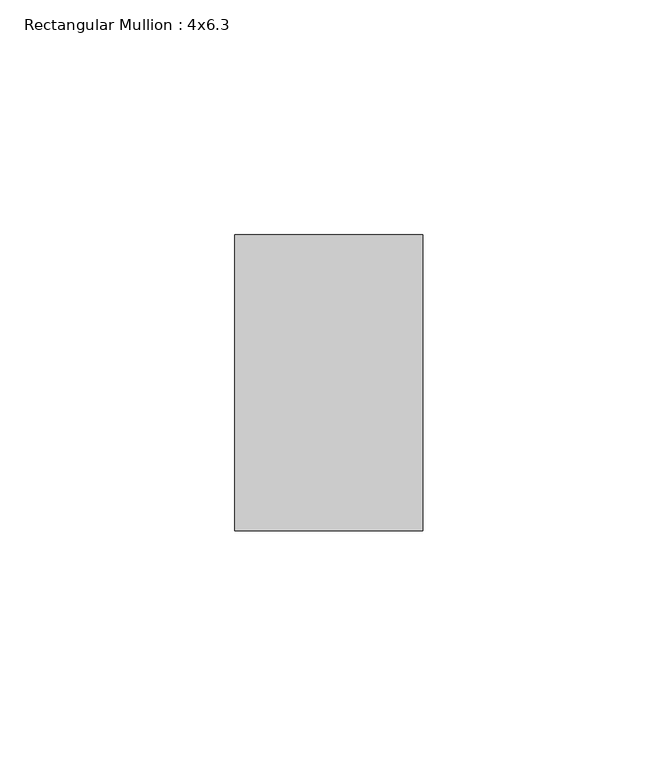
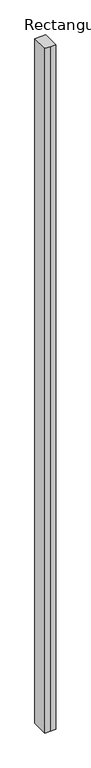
"""IFC4 building model written with IfcOpenShell, lengths in millimetres: member geometry, Rectangular Mullion : 4x6.3."""

from ifc_helpers import new_model, si_unit, frame, origin, place, context, project, spatial, polyline, outline, extrude, source, transform, mapped, element, save


def rectangular_mullion_4x6_3_10535ffc(model_context):
    return source(origin(), model_context, "Body", "SweptSolid", [
        extrude(outline(polyline([(-20.0, 20.0), (-20.0, 83.0), (20.0, 83.0), (20.0, 20.0), (0.0, 20.0), (-20.0, 20.0)])), frame((0.0, 0.0, -2658.6891919), z_axis=(0.0, 0.0, 1.0), x_axis=(1.0, 0.0, 0.0)), (0.0, 0.0, 1.0), 2658.6891919),
    ])


if __name__ == "__main__":
    model = new_model("IFC4")
    model_context = context("Model", 3, world=origin())
    ifc_project = project(units=[si_unit("LENGTHUNIT", "METRE", prefix="MILLI")], contexts=[model_context])
    site = spatial("IfcSite", under=ifc_project)
    building = spatial("IfcBuilding", under=site)
    placement = place(None, origin())
    rectangular_mullion_4x6_3_shape = rectangular_mullion_4x6_3_10535ffc(model_context)
    element("IfcMember", 1, ObjectType="Rectangular Mullion : 4x6.3", at=placement, inside=building, context=model_context, shape_type="MappedRepresentation", body=[
        mapped(rectangular_mullion_4x6_3_shape, transform((0.0, 0.0, 0.0), x_axis=(1.0, 0.0, 0.0), y_axis=(0.0, 1.0, 0.0), z_axis=(0.0, 0.0, 1.0))),
    ])
    save(model, "model.ifc")
